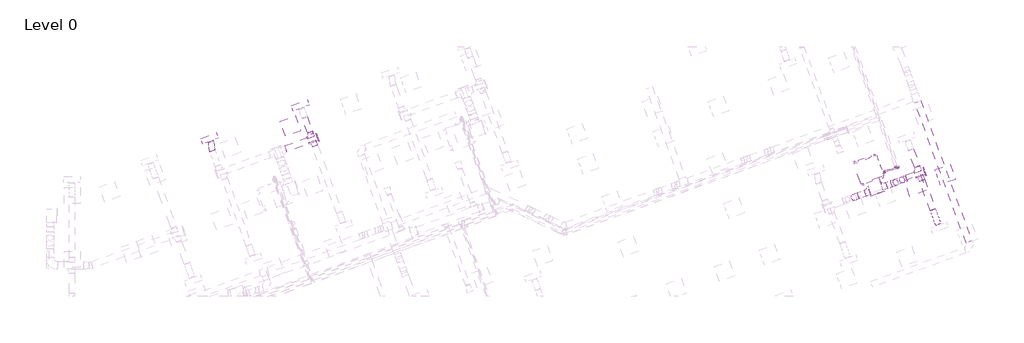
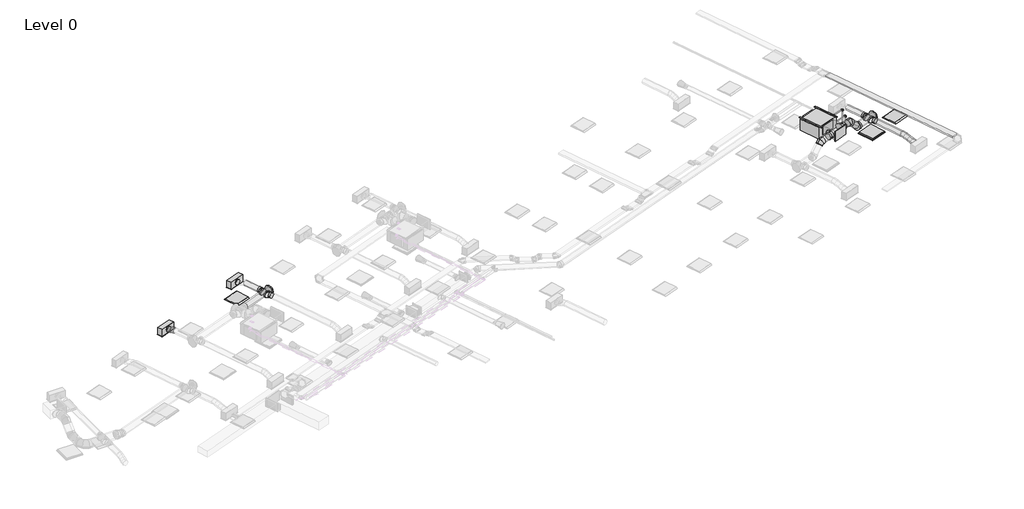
# One storey, part 29 of 34: 12 duct fittings, 11 duct segments, 6 pipe fittings, 4 pipe segments, 3 air terminals, 2 light fixtures, 1 cable carrier segment, 1 proxy.
"""IFC4 building model written with IfcOpenShell, lengths in millimetres."""

from ifc_helpers import new_model, si_unit, point, frame, frame_2d, origin, place, context, project, spatial, polyline, circle_curve, ellipse_curve, trimmed, segment, composite_curve, outline, extrude, transform, mapped, element, save
from ifc_brep_helpers import plane_surface, cylinder_surface, advanced_brep
from components import return_grille_rectangular_hosted_standard_7b12617c, supply_diffuser_with_plenum_linear_slot_hosted_8c379eed, fan_coil_unit_ceiling_ducted_chw_376_lps_9c8cc8ac, dw144_rectangular_blank_end_standard_1669e3e3, dw144_round_blank_end_standard_e3d0b58b, dw144_round_segmented_bend_slip_joint_standard_636bd9c1, dw144_round_shoe_branch_slip_joint1_standard_2_15a2edd8, dw144_round_shoe_branch_slip_joint1_standard_2_4a92c8a1, dw144_round_shoe_branch_slip_joint1_standard_2_671412f0, light_fixture_1c7c1157, elbow_threaded_gmi_standard_b4aa7741, socket_reducing_threaded_gmi_standard_0a4076b8

model = new_model("IFC4")

# Units and contexts
model_context = context("Model", 3, world=origin())
ifc_project = project(units=[si_unit("LENGTHUNIT", "METRE", prefix="MILLI")], contexts=[model_context])

# Site, building, storey
site = spatial("IfcSite", under=ifc_project)
building = spatial("IfcBuilding", under=site)
storey = spatial("IfcBuildingStorey", under=building, Name="Level 0", Elevation=0.0)

# Air terminals
placement = place(None, origin())
return_grille_rectangular_hosted_standard_shape = return_grille_rectangular_hosted_standard_7b12617c(model_context)
element("IfcAirTerminal", 1, ObjectType="Return Grille - Rectangular - Hosted : Standard", at=placement, inside=storey, context=model_context, shape_type="MappedRepresentation", body=[
    mapped(return_grille_rectangular_hosted_standard_shape, transform((62324.0047402, 14540.1267847, 2800.0), x_axis=(0.9396926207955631, 0.3420201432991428, 0.0), y_axis=(0.3420201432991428, -0.9396926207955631, 0.0), z_axis=(0.0, 0.0, -1.0))),
])
supply_diffuser_with_plenum_linear_slot_hosted_shape = supply_diffuser_with_plenum_linear_slot_hosted_8c379eed(model_context)
element("IfcAirTerminal", 2, ObjectType="Supply Diffuser with Plenum - Linear Slot - Hosted : 24\" x 8\"-200 In Inlet  4-Slot", at=placement, inside=storey, context=model_context, shape_type="MappedRepresentation", body=[
    mapped(supply_diffuser_with_plenum_linear_slot_hosted_shape, transform((35911.9429146, 16306.0157494, 2800.0), x_axis=(-0.9396926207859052, -0.3420201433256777, 0.0), y_axis=(-0.3420201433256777, 0.9396926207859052, 0.0), z_axis=(0.0, 0.0, -1.0))),
])
element("IfcAirTerminal", 3, ObjectType="Supply Diffuser with Plenum - Linear Slot - Hosted : 24\" x 8\"-200 In Inlet  4-Slot", at=placement, inside=storey, context=model_context, shape_type="MappedRepresentation", body=[
    mapped(supply_diffuser_with_plenum_linear_slot_hosted_shape, transform((39305.8307526, 17541.2899009, 2800.0), x_axis=(-0.9396926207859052, -0.3420201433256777, 0.0), y_axis=(-0.3420201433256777, 0.9396926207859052, 0.0), z_axis=(0.0, 0.0, -1.0))),
])

# Proxy
fan_coil_unit_ceiling_ducted_chw_376_lps_shape = fan_coil_unit_ceiling_ducted_chw_376_lps_9c8cc8ac(model_context)
element("IfcBuildingElementProxy", 4, Name="Fan Coil Unit - Ceiling Ducted - CHW : 376 LPS", ObjectType="Fan Coil Unit - Ceiling Ducted - CHW : 376 LPS", at=placement, inside=storey, context=model_context, shape_type="MappedRepresentation", body=[
    mapped(fan_coil_unit_ceiling_ducted_chw_376_lps_shape, transform((60297.8420212, 14594.4554515, 3215.575), x_axis=(0.9396926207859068, 0.34202014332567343, 0.0), y_axis=(-0.34202014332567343, 0.9396926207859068, 0.0), z_axis=(0.0, 0.0, 1.0))),
])

# Cable carrier segment
element("IfcCableCarrierSegment", 5, ObjectType="Perforated Cable Tray", at=placement, inside=storey, context=model_context, shape_type="SweptSolid", body=[
    extrude(outline(polyline([(62316.5561069, 17642.8846749), (62527.9869466, 17719.8392071), (64443.8977173, 12455.9176269), (64232.4668776, 12378.9630947), (62316.5561069, 17642.8846749)])), frame((0.0, 0.0, 3223.9627355), z_axis=(0.0, 0.0, 1.0), x_axis=(1.0, 0.0, 0.0)), (0.0, 0.0, 1.0), 50.0),
])

# Duct fittings
dw144_rectangular_blank_end_standard_shape = dw144_rectangular_blank_end_standard_1669e3e3(model_context)
element("IfcDuctFitting", 6, ObjectType="DW144 Rectangular Blank End : Standard", at=placement, inside=storey, context=model_context, shape_type="MappedRepresentation", body=[
    mapped(dw144_rectangular_blank_end_standard_shape, transform((60913.8704656, 14238.6945827, 3469.575), x_axis=(0.34202014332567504, -0.9396926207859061, 0.0), y_axis=(0.9396926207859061, 0.34202014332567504, 0.0), z_axis=(0.0, 0.0, 1.0))),
])
dw144_round_blank_end_standard_shape = dw144_round_blank_end_standard_e3d0b58b(model_context)
element("IfcDuctFitting", 7, ObjectType="DW144 Round Blank End : Standard", at=placement, inside=storey, context=model_context, shape_type="MappedRepresentation", body=[
    mapped(dw144_round_blank_end_standard_shape, transform((39941.5121166, 16343.1470586, 3072.2088531), x_axis=(0.9396926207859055, 0.3420201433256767, 0.0), y_axis=(-0.3420201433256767, 0.9396926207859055, 0.0), z_axis=(0.0, 0.0, 1.0))),
])
element("IfcDuctFitting", 8, ObjectType="DW144 Round Blank End : Standard", at=placement, inside=storey, context=model_context, shape_type="MappedRepresentation", body=[
    mapped(dw144_round_blank_end_standard_shape, transform((62668.7217522, 15052.7517594, 3072.2088531), x_axis=(0.9396926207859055, 0.3420201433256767, 0.0), y_axis=(-0.3420201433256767, 0.9396926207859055, 0.0), z_axis=(0.0, 0.0, 1.0))),
])
dw144_round_segmented_bend_slip_joint_standard_shape = dw144_round_segmented_bend_slip_joint_standard_636bd9c1(model_context)
element("IfcDuctFitting", 9, ObjectType="DW144 Round Segmented Bend - Slip Joint : Standard", at=placement, inside=storey, context=model_context, shape_type="MappedRepresentation", body=[
    mapped(dw144_round_segmented_bend_slip_joint_standard_shape, transform((61898.7954922, 14772.5215182, 3072.2088531), x_axis=(0.6644630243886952, 0.24184476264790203, -0.7071067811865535), y_axis=(0.6644630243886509, 0.2418447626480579, 0.7071067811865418), z_axis=(0.3420201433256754, -0.939692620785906, 0.0))),
])
element("IfcDuctFitting", 10, ObjectType="DW144 Round Segmented Bend - Slip Joint : Standard", at=placement, inside=storey, context=model_context, shape_type="MappedRepresentation", body=[
    mapped(dw144_round_segmented_bend_slip_joint_standard_shape, transform((61525.3934562, 14636.6142917, 3469.575), x_axis=(0.9396926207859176, 0.3420201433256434, 0.0), y_axis=(0.0, 0.0, -1.0), z_axis=(-0.3420201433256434, 0.9396926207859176, 0.0))),
])
element("IfcDuctFitting", 11, ObjectType="DW144 Round Segmented Bend - Slip Joint : Standard", at=placement, inside=storey, context=model_context, shape_type="MappedRepresentation", body=[
    mapped(dw144_round_segmented_bend_slip_joint_standard_shape, transform((60097.0606726, 14116.7436739, 3469.575), x_axis=(-0.9396926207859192, -0.3420201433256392, 0.0), y_axis=(0.0, 0.0, -1.0000000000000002), z_axis=(0.3420201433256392, -0.9396926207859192, 0.0))),
])
dw144_round_shoe_branch_slip_joint1_standard_2_shape = dw144_round_shoe_branch_slip_joint1_standard_2_15a2edd8(model_context)
element("IfcDuctFitting", 12, ObjectType="DW144 Round Shoe Branch - Slip Joint1 : Standard 2", at=placement, inside=storey, context=model_context, shape_type="MappedRepresentation", body=[
    mapped(dw144_round_shoe_branch_slip_joint1_standard_2_shape, transform((39722.5145153, 16396.4606719, 3072.2088531), x_axis=(-0.3420201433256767, 0.9396926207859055, 0.0), y_axis=(0.9396926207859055, 0.3420201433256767, 0.0), z_axis=(0.0, 0.0, -1.0))),
])
element("IfcDuctFitting", 13, ObjectType="DW144 Round Shoe Branch - Slip Joint1 : Standard 2", at=placement, inside=storey, context=model_context, shape_type="MappedRepresentation", body=[
    mapped(dw144_round_shoe_branch_slip_joint1_standard_2_shape, transform((39808.0195511, 16161.5375167, 3072.2088531), x_axis=(0.3420201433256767, -0.9396926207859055, 0.0), y_axis=(0.9396926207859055, 0.3420201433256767, 0.0), z_axis=(0.0, 0.0, 1.0))),
])
element("IfcDuctFitting", 14, ObjectType="DW144 Round Shoe Branch - Slip Joint1 : Standard 2", at=placement, inside=storey, context=model_context, shape_type="MappedRepresentation", body=[
    mapped(dw144_round_shoe_branch_slip_joint1_standard_2_shape, transform((62449.7241509, 15106.0653727, 3072.2088531), x_axis=(-0.3420201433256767, 0.9396926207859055, 0.0), y_axis=(0.9396926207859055, 0.3420201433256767, 0.0), z_axis=(0.0, 0.0, -1.0))),
])
element("IfcDuctFitting", 15, ObjectType="DW144 Round Shoe Branch - Slip Joint1 : Standard 2", at=placement, inside=storey, context=model_context, shape_type="MappedRepresentation", body=[
    mapped(dw144_round_shoe_branch_slip_joint1_standard_2_shape, transform((62535.2291867, 14871.1422175, 3072.2088531), x_axis=(0.3420201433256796, -0.9396926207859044, 0.0), y_axis=(0.9396926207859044, 0.3420201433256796, 0.0), z_axis=(0.0, 0.0, 1.0))),
])
dw144_round_shoe_branch_slip_joint1_standard_2_2_shape = dw144_round_shoe_branch_slip_joint1_standard_2_4a92c8a1(model_context)
element("IfcDuctFitting", 16, ObjectType="DW144 Round Shoe Branch - Slip Joint1 : Standard 2", at=placement, inside=storey, context=model_context, shape_type="MappedRepresentation", body=[
    mapped(dw144_round_shoe_branch_slip_joint1_standard_2_2_shape, transform((61092.4392924, 14479.0318633, 3469.575), x_axis=(0.9396926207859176, 0.3420201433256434, 0.0), y_axis=(0.3420201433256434, -0.9396926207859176, 0.0), z_axis=(0.0, 0.0, -1.0))),
])
dw144_round_shoe_branch_slip_joint1_standard_2_3_shape = dw144_round_shoe_branch_slip_joint1_standard_2_671412f0(model_context)
element("IfcDuctFitting", 17, ObjectType="DW144 Round Shoe Branch - Slip Joint1 : Standard 2", at=placement, inside=storey, context=model_context, shape_type="MappedRepresentation", body=[
    mapped(dw144_round_shoe_branch_slip_joint1_standard_2_3_shape, transform((60622.592982, 14308.0217916, 3469.575), x_axis=(-0.9396926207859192, -0.3420201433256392, 0.0), y_axis=(-0.3420201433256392, 0.9396926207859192, 0.0), z_axis=(0.0, 0.0, -1.0))),
])

# Duct segments
element("IfcDuctSegment", 18, ObjectType="DW144 Flanged Med Radius Bend / Shoe Branch", at=placement, inside=storey, context=model_context, shape_type="SweptSolid", body=[
    extrude(outline(polyline([(60501.2336439, 14641.4538326), (60971.0799543, 14812.4639042), (61148.7936208, 14324.1996185), (60678.9473104, 14153.1895468), (60501.2336439, 14641.4538326)])), frame((0.0, 0.0, 3294.575), z_axis=(0.0, 0.0, 1.0), x_axis=(1.0, 0.0, 0.0)), (0.0, 0.0, 1.0), 350.0),
])
element("IfcDuctSegment", 19, ObjectType="DW144 Segmented Bend / Shoe Branch", at=placement, inside=storey, context=model_context, shape_type="SweptSolid", body=[
    extrude(outline(composite_curve([segment(trimmed(circle_curve(frame_2d((0.0, 125.0)), 125.0), [point((125.0, 125.0))], [point((0.0, 0.0))], False, "CARTESIAN"), True, "CONTINUOUS"), segment(trimmed(circle_curve(frame_2d((0.0, 125.0)), 125.0), [point((0.0, 0.0))], [point((-125.0, 125.0))], False, "CARTESIAN"), True, "CONTINUOUS"), segment(trimmed(circle_curve(frame_2d((0.0, 125.0)), 125.0), [point((-125.0, 125.0))], [point((0.0, 250.0))], False, "CARTESIAN"), True, "CONTINUOUS"), segment(trimmed(circle_curve(frame_2d((0.0, 125.0)), 125.0), [point((0.0, 250.0))], [point((125.0, 125.0))], False, "CARTESIAN"), True, "CONTINUOUS")], self_intersect=False)), frame((38766.9179686, 15915.6297514, 3197.2088531), z_axis=(0.9396926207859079, 0.3420201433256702, 0.0), x_axis=(0.3420201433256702, -0.9396926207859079, 0.0)), (0.0, 0.0, 1.0), 1249.976984),
])
element("IfcDuctSegment", 20, ObjectType="DW144 Segmented Bend / Shoe Branch", at=placement, inside=storey, context=model_context, shape_type="SweptSolid", body=[
    extrude(outline(composite_curve([segment(trimmed(circle_curve(frame_2d((0.0, 100.0)), 100.0), [point((100.0, 100.0))], [point((0.0, 0.0))], False, "CARTESIAN"), True, "CONTINUOUS"), segment(trimmed(circle_curve(frame_2d((0.0, 100.0)), 100.0), [point((0.0, 0.0))], [point((-100.0, 100.0))], False, "CARTESIAN"), True, "CONTINUOUS"), segment(trimmed(circle_curve(frame_2d((0.0, 100.0)), 100.0), [point((-100.0, 100.0))], [point((0.0, 200.0))], False, "CARTESIAN"), True, "CONTINUOUS"), segment(trimmed(circle_curve(frame_2d((0.0, 100.0)), 100.0), [point((0.0, 200.0))], [point((100.0, 100.0))], False, "CARTESIAN"), True, "CONTINUOUS")], self_intersect=False)), frame((39671.2114938, 16537.414565, 3172.2088531), z_axis=(-0.3420201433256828, 0.9396926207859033, 0.0), x_axis=(0.9396926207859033, 0.3420201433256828, 0.0)), (0.0, 0.0, 1.0), 590.0),
])
element("IfcDuctSegment", 21, ObjectType="DW144 Segmented Bend / Shoe Branch", at=placement, inside=storey, context=model_context, shape_type="SweptSolid", body=[
    extrude(outline(composite_curve([segment(trimmed(circle_curve(frame_2d((0.0, -125.0)), 125.0), [point((-125.0, -125.0))], [point((0.0, 0.0))], False, "CARTESIAN"), True, "CONTINUOUS"), segment(trimmed(circle_curve(frame_2d((0.0, -125.0)), 125.0), [point((0.0, 0.0))], [point((125.0, -125.0))], False, "CARTESIAN"), True, "CONTINUOUS"), segment(trimmed(circle_curve(frame_2d((0.0, -125.0)), 125.0), [point((125.0, -125.0))], [point((0.0, -250.0))], False, "CARTESIAN"), True, "CONTINUOUS"), segment(trimmed(circle_curve(frame_2d((0.0, -125.0)), 125.0), [point((0.0, -250.0))], [point((-125.0, -125.0))], False, "CARTESIAN"), True, "CONTINUOUS")], self_intersect=False)), frame((61996.1038492, 14807.9388637, 2947.2088531), z_axis=(0.9396926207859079, 0.3420201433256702, 0.0), x_axis=(0.3420201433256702, -0.9396926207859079, 0.0)), (0.0, 0.0, 1.0), 715.7850217),
])
element("IfcDuctSegment", 22, ObjectType="DW144 Segmented Bend / Shoe Branch", at=placement, inside=storey, context=model_context, shape_type="SweptSolid", body=[
    extrude(outline(composite_curve([segment(trimmed(circle_curve(frame_2d((0.0, 100.0)), 100.0), [point((99.9999999, 100.0))], [point((0.0, 0.0))], False, "CARTESIAN"), True, "CONTINUOUS"), segment(trimmed(circle_curve(frame_2d((0.0, 100.0)), 100.0), [point((0.0, 0.0))], [point((-100.0, 100.0))], False, "CARTESIAN"), True, "CONTINUOUS"), segment(trimmed(circle_curve(frame_2d((0.0, 100.0)), 100.0), [point((-100.0, 100.0))], [point((0.0, 200.0))], False, "CARTESIAN"), True, "CONTINUOUS"), segment(trimmed(circle_curve(frame_2d((0.0, 100.0)), 100.0), [point((0.0, 200.0))], [point((99.9999999, 100.0))], False, "CARTESIAN"), True, "CONTINUOUS")], self_intersect=False)), frame((62398.4211294, 15247.0192659, 3172.2088531), z_axis=(-0.3420201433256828, 0.9396926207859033, 0.0), x_axis=(0.9396926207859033, 0.3420201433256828, 0.0)), (0.0, 0.0, 1.0), 682.8884371),
])
element("IfcDuctSegment", 23, ObjectType="DW144 Segmented Bend / Shoe Branch", at=placement, inside=storey, context=model_context, shape_type="SweptSolid", body=[
    extrude(outline(composite_curve([segment(trimmed(circle_curve(frame_2d((0.0, -100.0)), 100.0), [point((-100.0, -100.0))], [point((0.0, 0.0))], False, "CARTESIAN"), True, "CONTINUOUS"), segment(trimmed(circle_curve(frame_2d((0.0, -100.0)), 100.0), [point((0.0, 0.0))], [point((100.0, -100.0))], False, "CARTESIAN"), True, "CONTINUOUS"), segment(trimmed(circle_curve(frame_2d((0.0, -100.0)), 100.0), [point((100.0, -100.0))], [point((0.0, -200.0))], False, "CARTESIAN"), True, "CONTINUOUS"), segment(trimmed(circle_curve(frame_2d((0.0, -100.0)), 100.0), [point((0.0, -200.0))], [point((-100.0, -100.0))], False, "CARTESIAN"), True, "CONTINUOUS")], self_intersect=False)), frame((62987.2757878, 13629.1543884, 2972.2088531), z_axis=(-0.34202014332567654, 0.9396926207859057, 0.0), x_axis=(0.9396926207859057, 0.34202014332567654, 0.0)), (0.0, 0.0, 1.0), 1171.6958415),
])
element("IfcDuctSegment", 24, ObjectType="DW144 Segmented Bend / Shoe Branch", at=placement, inside=storey, context=model_context, shape_type="SweptSolid", body=[
    extrude(outline(composite_curve([segment(trimmed(circle_curve(frame_2d((0.0, 125.0)), 125.0), [point((124.9999999, 125.0))], [point((0.0, 0.0))], False, "CARTESIAN"), True, "CONTINUOUS"), segment(trimmed(circle_curve(frame_2d((0.0, 125.0)), 125.0), [point((0.0, 0.0))], [point((-125.0, 125.0))], False, "CARTESIAN"), True, "CONTINUOUS"), segment(trimmed(circle_curve(frame_2d((0.0, 125.0)), 125.0), [point((-125.0, 125.0))], [point((0.0, 250.0))], False, "CARTESIAN"), True, "CONTINUOUS"), segment(trimmed(circle_curve(frame_2d((0.0, 125.0)), 125.0), [point((0.0, 250.0))], [point((124.9999999, 125.0))], False, "CARTESIAN"), True, "CONTINUOUS")], self_intersect=False)), frame((61256.885501, 14538.8853883, 3594.575), z_axis=(0.9396926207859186, 0.3420201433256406, 0.0), x_axis=(0.3420201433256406, -0.9396926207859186, 0.0)), (0.0, 0.0, 1.0), 182.1868071),
])
element("IfcDuctSegment", 25, ObjectType="DW144 Segmented Bend / Shoe Branch", at=placement, inside=storey, context=model_context, shape_type="SweptSolid", body=[
    extrude(outline(composite_curve([segment(trimmed(circle_curve(frame_2d((0.0, -125.0)), 125.0), [point((-125.0, -125.0))], [point((0.0, 0.0))], False, "CARTESIAN"), True, "CONTINUOUS"), segment(trimmed(circle_curve(frame_2d((0.0, -125.0)), 125.0), [point((0.0, 0.0))], [point((125.0, -125.0))], False, "CARTESIAN"), True, "CONTINUOUS"), segment(trimmed(circle_curve(frame_2d((0.0, -125.0)), 125.0), [point((125.0, -125.0))], [point((0.0, -250.0))], False, "CARTESIAN"), True, "CONTINUOUS"), segment(trimmed(circle_curve(frame_2d((0.0, -125.0)), 125.0), [point((0.0, -250.0))], [point((-125.0, -125.0))], False, "CARTESIAN"), True, "CONTINUOUS")], self_intersect=False)), frame((60194.3690296, 14152.1610194, 3344.575), z_axis=(0.9396926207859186, 0.3420201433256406, 0.0), x_axis=(0.3420201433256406, -0.9396926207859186, 0.0)), (0.0, 0.0, 1.0), 280.7064117),
])
element("IfcDuctSegment", 26, ObjectType="DW144 Segmented Bend / Shoe Branch", at=placement, inside=storey, context=model_context, shape_type="SweptSolid", body=[
    extrude(outline(composite_curve([segment(trimmed(circle_curve(frame_2d((0.0, -125.0)), 125.0), [point((57.2076922, -236.1408113))], [point((-111.1408114, -182.2076923))], False, "CARTESIAN"), True, "CONTINUOUS"), segment(trimmed(circle_curve(frame_2d((0.0, -125.0)), 125.0), [point((-111.1408114, -182.2076923))], [point((-57.2076923, -13.8591886))], False, "CARTESIAN"), True, "CONTINUOUS"), segment(trimmed(circle_curve(frame_2d((0.0, -125.0)), 125.0), [point((-57.2076923, -13.8591886))], [point((111.1408113, -67.7923077))], False, "CARTESIAN"), True, "CONTINUOUS"), segment(trimmed(circle_curve(frame_2d((0.0, -125.0)), 125.0), [point((111.1408113, -67.7923077))], [point((57.2076922, -236.1408113))], False, "CARTESIAN"), True, "CONTINUOUS")], self_intersect=False)), frame((61829.9880931, 14865.7512541, 3185.884105), z_axis=(-0.6644630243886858, -0.24184476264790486, 0.7071067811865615), x_axis=(0.7473211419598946, -0.2150305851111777, 0.6287073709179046)), (0.0, 0.0, 1.0), 354.8538129),
])
element("IfcDuctSegment", 27, ObjectType="Flex - Round", at=placement, inside=storey, context=model_context, shape_type="AdvancedBrep", body=[
    advanced_brep(
    [(35924.0047582, 15801.4077374, 3072.2088531), (36017.9740203, 15835.6097517, 2972.2088531), (36111.9432824, 15869.8117661, 3072.2088531), (36017.9740203, 15835.6097517, 3172.2088531), (35916.3743032, 15822.3722403, 3072.2088531), (36015.9897132, 15841.0615907, 2972.2088531), (36108.1756109, 15880.1633583, 3072.2088531), (36008.5602009, 15861.4740079, 3172.2088531), (35862.0600489, 16150.6873563, 2954.4), (35956.029311, 16184.8893706, 3054.4), (36049.9985731, 16219.0913849, 2954.4), (35956.029311, 16184.8893706, 2854.4), (35901.0047451, 15886.5928885, 3057.7411781), (36007.5007644, 15876.532083, 2964.2180345), (36097.5133869, 15924.7147327, 3062.1722867), (35991.0173676, 15934.7755382, 3155.6954303), (35890.9852261, 15962.3554206, 3026.0114711), (35999.801173, 15934.7524967, 2939.8350497), (36089.0810347, 15988.4759131, 3035.4688025), (35980.2650877, 16016.078837, 3121.645224), (35884.9222967, 16032.0232092, 2991.1400506), (35993.7382436, 16004.4202853, 2904.9636291), (36083.0181052, 16058.1437017, 3000.597382), (35974.2021583, 16085.7466257, 3086.7738035), (35876.4899444, 16095.7843897, 2964.4365665), (35982.9859637, 16085.7235841, 2870.9134228), (36072.9985862, 16133.9062338, 2968.867675), (35966.5025669, 16143.9670393, 3062.3908187), (35865.8277204, 16140.335764, 2954.4), (35965.4431304, 16159.0251144, 2854.4), (36057.6290281, 16198.126882, 2954.4), (35958.0136181, 16179.4375316, 3054.4)],
    [
        (0, 1, circle_curve(frame((36017.9740203, 15835.6097517, 3072.2088531), z_axis=(0.3420201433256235, -0.9396926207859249, 0.0), x_axis=(-0.9396926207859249, -0.3420201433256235, 0.0)), 100.0)),
        (1, 2, circle_curve(frame((36017.9740203, 15835.6097517, 3072.2088531), z_axis=(0.3420201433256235, -0.9396926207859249, 0.0), x_axis=(-0.9396926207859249, -0.3420201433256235, 0.0)), 100.0)),
        (2, 3, circle_curve(frame((36017.9740203, 15835.6097517, 3072.2088531), z_axis=(0.3420201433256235, -0.9396926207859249, 0.0), x_axis=(-0.9396926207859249, -0.3420201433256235, 0.0)), 100.0)),
        (3, 0, circle_curve(frame((36017.9740203, 15835.6097517, 3072.2088531), z_axis=(0.3420201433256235, -0.9396926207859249, 0.0), x_axis=(-0.9396926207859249, -0.3420201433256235, 0.0)), 100.0)),
        (0, 4),
        (4, 5, ellipse_curve(frame((36012.274957, 15851.2677993, 3072.2088531), z_axis=(0.28681455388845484, -0.9519007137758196, 0.10780743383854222), x_axis=(0.47182638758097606, 0.04242446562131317, -0.8806702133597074)), 100.746488, 100.0)),
        (5, 1),
        (5, 6, ellipse_curve(frame((36012.274957, 15851.2677993, 3072.2088531), z_axis=(0.28681455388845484, -0.9519007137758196, 0.10780743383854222), x_axis=(0.47182638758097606, 0.04242446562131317, -0.8806702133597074)), 100.746488, 100.0)),
        (6, 2),
        (6, 7, ellipse_curve(frame((36012.274957, 15851.2677993, 3072.2088531), z_axis=(0.28681455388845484, -0.9519007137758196, 0.10780743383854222), x_axis=(0.47182638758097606, 0.04242446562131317, -0.8806702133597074)), 100.746488, 100.0)),
        (7, 3),
        (7, 4, ellipse_curve(frame((36012.274957, 15851.2677993, 3072.2088531), z_axis=(0.28681455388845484, -0.9519007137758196, 0.10780743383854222), x_axis=(0.47182638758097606, 0.04242446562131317, -0.8806702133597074)), 100.746488, 100.0)),
        (8, 9, circle_curve(frame((35956.029311, 16184.8893706, 2954.4), z_axis=(-0.34202014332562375, 0.9396926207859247, 0.0), x_axis=(-0.9396926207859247, -0.34202014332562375, 0.0)), 100.0)),
        (9, 10, circle_curve(frame((35956.029311, 16184.8893706, 2954.4), z_axis=(-0.34202014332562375, 0.9396926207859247, 0.0), x_axis=(-0.9396926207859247, -0.34202014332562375, 0.0)), 100.0)),
        (10, 11, circle_curve(frame((35956.029311, 16184.8893706, 2954.4), z_axis=(-0.34202014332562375, 0.9396926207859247, 0.0), x_axis=(-0.9396926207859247, -0.34202014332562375, 0.0)), 100.0)),
        (11, 8, circle_curve(frame((35956.029311, 16184.8893706, 2954.4), z_axis=(-0.34202014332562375, 0.9396926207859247, 0.0), x_axis=(-0.9396926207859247, -0.34202014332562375, 0.0)), 100.0)),
        (4, 12),
        (12, 13, ellipse_curve(frame((35999.259066, 15905.6538106, 3059.9567324), z_axis=(0.17512607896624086, -0.9376352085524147, 0.30028498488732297), x_axis=(0.5236540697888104, -0.16957305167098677, -0.8348840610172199)), 100.5188435, 100.0)),
        (13, 5),
        (13, 14, ellipse_curve(frame((35999.259066, 15905.6538106, 3059.9567324), z_axis=(0.17512607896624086, -0.9376352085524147, 0.30028498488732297), x_axis=(0.5236540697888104, -0.16957305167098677, -0.8348840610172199)), 100.5188435, 100.0)),
        (14, 6),
        (14, 15, ellipse_curve(frame((35999.259066, 15905.6538106, 3059.9567324), z_axis=(0.17512607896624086, -0.9376352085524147, 0.30028498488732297), x_axis=(0.5236540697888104, -0.16957305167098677, -0.8348840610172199)), 100.5188435, 100.0)),
        (15, 7),
        (15, 12, ellipse_curve(frame((35999.259066, 15905.6538106, 3059.9567324), z_axis=(0.17512607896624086, -0.9376352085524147, 0.30028498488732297), x_axis=(0.5236540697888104, -0.16957305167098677, -0.8348840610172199)), 100.5188435, 100.0)),
        (12, 16),
        (16, 17, ellipse_curve(frame((35990.0331304, 15975.4156668, 3030.7401368), z_axis=(0.09941622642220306, -0.9042889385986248, 0.4151842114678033), x_axis=(0.5431382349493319, -0.30029372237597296, -0.7841074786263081)), 100.0802707, 100.0)),
        (17, 13),
        (17, 18, ellipse_curve(frame((35990.0331304, 15975.4156668, 3030.7401368), z_axis=(0.09941622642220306, -0.9042889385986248, 0.4151842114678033), x_axis=(0.5431382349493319, -0.30029372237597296, -0.7841074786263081)), 100.0802707, 100.0)),
        (18, 14),
        (18, 19, ellipse_curve(frame((35990.0331304, 15975.4156668, 3030.7401368), z_axis=(0.09941622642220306, -0.9042889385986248, 0.4151842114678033), x_axis=(0.5431382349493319, -0.30029372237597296, -0.7841074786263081)), 100.0802707, 100.0)),
        (19, 15),
        (19, 16, ellipse_curve(frame((35990.0331304, 15975.4156668, 3030.7401368), z_axis=(0.09941622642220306, -0.9042889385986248, 0.4151842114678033), x_axis=(0.5431382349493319, -0.30029372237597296, -0.7841074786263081)), 100.0802707, 100.0)),
        (16, 20),
        (20, 21, ellipse_curve(frame((35983.9702009, 16045.0834555, 2995.8687163), z_axis=(0.0994162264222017, -0.9042889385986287, 0.4151842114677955), x_axis=(-0.5431382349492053, 0.3002937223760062, 0.7841074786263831)), 100.0802707, 100.0)),
        (21, 17),
        (21, 22, ellipse_curve(frame((35983.9702009, 16045.0834555, 2995.8687163), z_axis=(0.0994162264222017, -0.9042889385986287, 0.4151842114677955), x_axis=(-0.5431382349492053, 0.3002937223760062, 0.7841074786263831)), 100.0802707, 100.0)),
        (22, 18),
        (22, 23, ellipse_curve(frame((35983.9702009, 16045.0834555, 2995.8687163), z_axis=(0.0994162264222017, -0.9042889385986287, 0.4151842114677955), x_axis=(-0.5431382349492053, 0.3002937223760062, 0.7841074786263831)), 100.0802707, 100.0)),
        (23, 19),
        (23, 20, ellipse_curve(frame((35983.9702009, 16045.0834555, 2995.8687163), z_axis=(0.0994162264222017, -0.9042889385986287, 0.4151842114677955), x_axis=(-0.5431382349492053, 0.3002937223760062, 0.7841074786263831)), 100.0802707, 100.0)),
        (20, 24),
        (24, 25, ellipse_curve(frame((35974.7442653, 16114.8453117, 2966.6521207), z_axis=(0.17512607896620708, -0.9376352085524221, 0.30028498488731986), x_axis=(-0.5236540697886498, 0.16957305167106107, 0.8348840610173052)), 100.5188435, 100.0)),
        (25, 21),
        (25, 26, ellipse_curve(frame((35974.7442653, 16114.8453117, 2966.6521207), z_axis=(0.17512607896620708, -0.9376352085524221, 0.30028498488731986), x_axis=(-0.5236540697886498, 0.16957305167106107, 0.8348840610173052)), 100.5188435, 100.0)),
        (26, 22),
        (26, 27, ellipse_curve(frame((35974.7442653, 16114.8453117, 2966.6521207), z_axis=(0.17512607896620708, -0.9376352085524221, 0.30028498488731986), x_axis=(-0.5236540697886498, 0.16957305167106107, 0.8348840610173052)), 100.5188435, 100.0)),
        (27, 23),
        (27, 24, ellipse_curve(frame((35974.7442653, 16114.8453117, 2966.6521207), z_axis=(0.17512607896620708, -0.9376352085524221, 0.30028498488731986), x_axis=(-0.5236540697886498, 0.16957305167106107, 0.8348840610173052)), 100.5188435, 100.0)),
        (24, 28),
        (28, 29, ellipse_curve(frame((35961.7283743, 16169.231323, 2954.4), z_axis=(0.2868145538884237, -0.9519007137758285, 0.10780743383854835), x_axis=(-0.4718263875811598, -0.04242446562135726, 0.8806702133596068)), 100.746488, 100.0)),
        (29, 25),
        (29, 30, ellipse_curve(frame((35961.7283743, 16169.231323, 2954.4), z_axis=(0.2868145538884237, -0.9519007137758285, 0.10780743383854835), x_axis=(-0.4718263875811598, -0.04242446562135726, 0.8806702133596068)), 100.746488, 100.0)),
        (30, 26),
        (30, 31, ellipse_curve(frame((35961.7283743, 16169.231323, 2954.4), z_axis=(0.2868145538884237, -0.9519007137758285, 0.10780743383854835), x_axis=(-0.4718263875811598, -0.04242446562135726, 0.8806702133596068)), 100.746488, 100.0)),
        (31, 27),
        (31, 28, ellipse_curve(frame((35961.7283743, 16169.231323, 2954.4), z_axis=(0.2868145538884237, -0.9519007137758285, 0.10780743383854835), x_axis=(-0.4718263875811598, -0.04242446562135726, 0.8806702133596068)), 100.746488, 100.0)),
        (28, 8),
        (11, 29),
        (10, 30),
        (9, 31),
    ],
    [
        plane_surface(frame((36017.9740203, 15835.6097517, 3172.2088531), z_axis=(0.3420201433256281, -0.9396926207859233, 0.0), x_axis=(0.9396926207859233, 0.3420201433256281, 0.0))),
        cylinder_surface(frame((36017.9740203, 15835.6097517, 3072.2088531), z_axis=(0.3420201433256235, -0.9396926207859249, 0.0), x_axis=(-0.9396926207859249, -0.3420201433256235, 0.0)), 100.0),
        plane_surface(frame((35956.029311, 16184.8893706, 3054.4), z_axis=(-0.3420201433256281, 0.9396926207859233, 0.0), x_axis=(0.9396926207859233, 0.3420201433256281, 0.0))),
        cylinder_surface(frame((36012.274957, 15851.2677993, 3072.2088531), z_axis=(0.2273586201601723, -0.9500024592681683, 0.2140172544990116), x_axis=(-0.9718455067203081, -0.2353088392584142, -0.012085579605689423)), 100.0),
        cylinder_surface(frame((35999.259066, 15905.6538106, 3059.9567324), z_axis=(0.12108565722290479, -0.9155884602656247, 0.38345278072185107), x_axis=(-0.9882405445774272, -0.14752885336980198, -0.040197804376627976)), 100.0),
        cylinder_surface(frame((35990.0331304, 15975.4156668, 3030.7401368), z_axis=(0.07758731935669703, -0.8915388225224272, 0.4462496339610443), x_axis=(-0.9919133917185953, -0.11412067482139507, -0.05553642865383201)), 100.0),
        cylinder_surface(frame((35983.9702009, 16045.0834555, 2995.8687163), z_axis=(0.121085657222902, -0.9155884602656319, 0.38345278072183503), x_axis=(-0.9882405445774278, -0.1475288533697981, -0.040197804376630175)), 100.0),
        cylinder_surface(frame((35974.7442653, 16114.8453117, 2966.6521207), z_axis=(0.22735862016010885, -0.950002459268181, 0.21401725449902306), x_axis=(-0.9718455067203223, -0.23530883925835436, -0.012085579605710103)), 100.0),
        cylinder_surface(frame((35961.7283743, 16169.231323, 2954.4), z_axis=(0.34202014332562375, -0.9396926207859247, 0.0), x_axis=(-0.9396926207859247, -0.34202014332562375, 0.0)), 100.0),
    ],
    [
        (0, [[1, 2, 3, 4]]),
        (1, [[-1, 5, 6, 7]]),
        (1, [[-2, -7, 8, 9]]),
        (1, [[-3, -9, 10, 11]]),
        (1, [[-4, -11, 12, -5]]),
        (2, [[13, 14, 15, 16]]),
        (3, [[-6, 17, 18, 19]]),
        (3, [[-8, -19, 20, 21]]),
        (3, [[-10, -21, 22, 23]]),
        (3, [[-12, -23, 24, -17]]),
        (4, [[-18, 25, 26, 27]]),
        (4, [[-20, -27, 28, 29]]),
        (4, [[-22, -29, 30, 31]]),
        (4, [[-24, -31, 32, -25]]),
        (5, [[-26, 33, 34, 35]]),
        (5, [[-28, -35, 36, 37]]),
        (5, [[-30, -37, 38, 39]]),
        (5, [[-32, -39, 40, -33]]),
        (6, [[-34, 41, 42, 43]]),
        (6, [[-36, -43, 44, 45]]),
        (6, [[-38, -45, 46, 47]]),
        (6, [[-40, -47, 48, -41]]),
        (7, [[-42, 49, 50, 51]]),
        (7, [[-44, -51, 52, 53]]),
        (7, [[-46, -53, 54, 55]]),
        (7, [[-48, -55, 56, -49]]),
        (8, [[-50, 57, -16, 58]]),
        (8, [[-52, -58, -15, 59]]),
        (8, [[-54, -59, -14, 60]]),
        (8, [[-56, -60, -13, -57]]),
    ],
),
])
element("IfcDuctSegment", 28, ObjectType="Flex - Round", at=placement, inside=storey, context=model_context, shape_type="AdvancedBrep", body=[
    advanced_brep(
    [(63081.2450499, 13663.3564027, 3072.2088531), (62987.2757878, 13629.1543884, 2972.2088531), (62893.3065257, 13594.952374, 3072.2088531), (62987.2757878, 13629.1543884, 3172.2088531), (63085.4622602, 13651.7697128, 3072.2088531), (62989.1858231, 13623.9066095, 2972.2088531), (62897.523736, 13583.3656841, 3072.2088531), (62993.800173, 13611.2287874, 3172.2088531), (63282.4260532, 13110.616139, 2954.4), (63188.4567912, 13076.4141246, 3054.4), (63094.4875291, 13042.2121103, 2954.4), (63188.4567912, 13076.4141246, 2854.4), (63131.9148616, 13524.1422392, 3053.8012198), (63031.0450129, 13508.8994309, 2955.6214373), (62943.9763375, 13455.7382106, 3053.8012198), (63044.8461862, 13470.9810189, 3151.9810023), (63181.8355516, 13386.9862709, 3013.3044266), (63078.7222223, 13377.9073745, 2916.9446062), (62993.8970274, 13318.5822422, 3013.3044266), (63097.0103566, 13327.6611385, 3109.6642469), (63231.7562415, 13249.8303025, 2972.8076333), (63130.8863928, 13234.5874941, 2874.6278508), (63043.8177174, 13181.4262738, 2972.8076333), (63144.6875661, 13196.6690821, 3070.9874158), (63278.208843, 13122.2028289, 2954.4), (63181.932406, 13094.3397257, 2854.4), (63090.2703188, 13053.7988003, 2954.4), (63186.5467558, 13081.6619035, 3054.4)],
    [
        (0, 1, circle_curve(frame((62987.2757878, 13629.1543884, 3072.2088531), z_axis=(-0.34202014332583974, 0.9396926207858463, 0.0), x_axis=(0.9396926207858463, 0.34202014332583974, 0.0)), 100.0)),
        (1, 2, circle_curve(frame((62987.2757878, 13629.1543884, 3072.2088531), z_axis=(-0.34202014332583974, 0.9396926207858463, 0.0), x_axis=(0.9396926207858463, 0.34202014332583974, 0.0)), 100.0)),
        (2, 3, circle_curve(frame((62987.2757878, 13629.1543884, 3072.2088531), z_axis=(-0.34202014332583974, 0.9396926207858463, 0.0), x_axis=(0.9396926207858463, 0.34202014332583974, 0.0)), 100.0)),
        (3, 0, circle_curve(frame((62987.2757878, 13629.1543884, 3072.2088531), z_axis=(-0.34202014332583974, 0.9396926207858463, 0.0), x_axis=(0.9396926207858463, 0.34202014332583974, 0.0)), 100.0)),
        (0, 4),
        (4, 5, ellipse_curve(frame((62991.4929981, 13617.5676984, 3072.2088531), z_axis=(-0.3412446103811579, 0.9375618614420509, 0.06730432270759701), x_axis=(-0.023019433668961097, 0.06324537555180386, -0.9977324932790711)), 100.227266, 100.0)),
        (5, 1),
        (5, 6, ellipse_curve(frame((62991.4929981, 13617.5676984, 3072.2088531), z_axis=(-0.3412446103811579, 0.9375618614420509, 0.06730432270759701), x_axis=(-0.023019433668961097, 0.06324537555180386, -0.9977324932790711)), 100.227266, 100.0)),
        (6, 2),
        (6, 7, ellipse_curve(frame((62991.4929981, 13617.5676984, 3072.2088531), z_axis=(-0.3412446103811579, 0.9375618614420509, 0.06730432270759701), x_axis=(-0.023019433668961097, 0.06324537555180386, -0.9977324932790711)), 100.227266, 100.0)),
        (7, 3),
        (7, 4, ellipse_curve(frame((62991.4929981, 13617.5676984, 3072.2088531), z_axis=(-0.3412446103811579, 0.9375618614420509, 0.06730432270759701), x_axis=(-0.023019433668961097, 0.06324537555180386, -0.9977324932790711)), 100.227266, 100.0)),
        (8, 9, circle_curve(frame((63188.4567912, 13076.4141246, 2954.4), z_axis=(0.3420201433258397, -0.9396926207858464, 0.0), x_axis=(0.9396926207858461, 0.34202014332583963, 0.0)), 100.0)),
        (9, 10, circle_curve(frame((63188.4567912, 13076.4141246, 2954.4), z_axis=(0.3420201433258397, -0.9396926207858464, 0.0), x_axis=(0.9396926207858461, 0.34202014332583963, 0.0)), 100.0)),
        (10, 11, circle_curve(frame((63188.4567912, 13076.4141246, 2954.4), z_axis=(0.3420201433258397, -0.9396926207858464, 0.0), x_axis=(0.9396926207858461, 0.34202014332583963, 0.0)), 100.0)),
        (11, 8, circle_curve(frame((63188.4567912, 13076.4141246, 2954.4), z_axis=(0.3420201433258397, -0.9396926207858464, 0.0), x_axis=(0.9396926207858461, 0.34202014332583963, 0.0)), 100.0)),
        (4, 12),
        (12, 13, ellipse_curve(frame((63037.9455995, 13489.9402249, 3053.8012198), z_axis=(-0.3350193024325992, 0.9204579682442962, 0.2012938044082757), x_axis=(-0.06884653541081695, 0.1891543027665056, -0.979530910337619)), 100.2314286, 100.0)),
        (13, 5),
        (13, 14, ellipse_curve(frame((63037.9455995, 13489.9402249, 3053.8012198), z_axis=(-0.3350193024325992, 0.9204579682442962, 0.2012938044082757), x_axis=(-0.06884653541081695, 0.1891543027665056, -0.979530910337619)), 100.2314286, 100.0)),
        (14, 6),
        (14, 15, ellipse_curve(frame((63037.9455995, 13489.9402249, 3053.8012198), z_axis=(-0.3350193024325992, 0.9204579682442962, 0.2012938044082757), x_axis=(-0.06884653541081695, 0.1891543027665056, -0.979530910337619)), 100.2314286, 100.0)),
        (15, 7),
        (15, 12, ellipse_curve(frame((63037.9455995, 13489.9402249, 3053.8012198), z_axis=(-0.3350193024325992, 0.9204579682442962, 0.2012938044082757), x_axis=(-0.06884653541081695, 0.1891543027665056, -0.979530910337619)), 100.2314286, 100.0)),
        (12, 16),
        (16, 17, circle_curve(frame((63087.8662895, 13352.7842565, 3013.3044266), z_axis=(-0.32956999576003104, 0.9054861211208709, 0.26735463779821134), x_axis=(0.9396926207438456, 0.34202014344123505, 1.6733896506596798e-11)), 100.0)),
        (17, 13),
        (17, 18, circle_curve(frame((63087.8662895, 13352.7842565, 3013.3044266), z_axis=(-0.32956999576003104, 0.9054861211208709, 0.26735463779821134), x_axis=(0.9396926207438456, 0.34202014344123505, 1.6733896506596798e-11)), 100.0)),
        (18, 14),
        (18, 19, circle_curve(frame((63087.8662895, 13352.7842565, 3013.3044266), z_axis=(-0.32956999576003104, 0.9054861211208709, 0.26735463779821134), x_axis=(0.9396926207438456, 0.34202014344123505, 1.6733896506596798e-11)), 100.0)),
        (19, 15),
        (19, 16, circle_curve(frame((63087.8662895, 13352.7842565, 3013.3044266), z_axis=(-0.32956999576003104, 0.9054861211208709, 0.26735463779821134), x_axis=(0.9396926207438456, 0.34202014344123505, 1.6733896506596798e-11)), 100.0)),
        (16, 20),
        (20, 21, ellipse_curve(frame((63137.7869795, 13215.6282881, 2972.8076333), z_axis=(-0.3350193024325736, 0.920457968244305, 0.20129380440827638), x_axis=(0.06884653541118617, -0.18915430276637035, 0.979530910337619)), 100.2314286, 100.0)),
        (21, 17),
        (21, 22, ellipse_curve(frame((63137.7869795, 13215.6282881, 2972.8076333), z_axis=(-0.3350193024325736, 0.920457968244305, 0.20129380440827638), x_axis=(0.06884653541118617, -0.18915430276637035, 0.979530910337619)), 100.2314286, 100.0)),
        (22, 18),
        (22, 23, ellipse_curve(frame((63137.7869795, 13215.6282881, 2972.8076333), z_axis=(-0.3350193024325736, 0.920457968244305, 0.20129380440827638), x_axis=(0.06884653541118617, -0.18915430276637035, 0.979530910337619)), 100.2314286, 100.0)),
        (23, 19),
        (23, 20, ellipse_curve(frame((63137.7869795, 13215.6282881, 2972.8076333), z_axis=(-0.3350193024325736, 0.920457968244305, 0.20129380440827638), x_axis=(0.06884653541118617, -0.18915430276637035, 0.979530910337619)), 100.2314286, 100.0)),
        (20, 24),
        (24, 25, ellipse_curve(frame((63184.2395809, 13088.0008146, 2954.4), z_axis=(-0.3412446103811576, 0.9375618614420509, 0.06730432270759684), x_axis=(0.02301943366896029, -0.0632453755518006, 0.9977324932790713)), 100.227266, 100.0)),
        (25, 21),
        (25, 26, ellipse_curve(frame((63184.2395809, 13088.0008146, 2954.4), z_axis=(-0.3412446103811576, 0.9375618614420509, 0.06730432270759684), x_axis=(0.02301943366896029, -0.0632453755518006, 0.9977324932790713)), 100.227266, 100.0)),
        (26, 22),
        (26, 27, ellipse_curve(frame((63184.2395809, 13088.0008146, 2954.4), z_axis=(-0.3412446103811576, 0.9375618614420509, 0.06730432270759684), x_axis=(0.02301943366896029, -0.0632453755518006, 0.9977324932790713)), 100.227266, 100.0)),
        (27, 23),
        (27, 24, ellipse_curve(frame((63184.2395809, 13088.0008146, 2954.4), z_axis=(-0.3412446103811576, 0.9375618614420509, 0.06730432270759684), x_axis=(0.02301943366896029, -0.0632453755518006, 0.9977324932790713)), 100.227266, 100.0)),
        (24, 8),
        (11, 25),
        (10, 26),
        (9, 27),
    ],
    [
        plane_surface(frame((62987.2757878, 13629.1543884, 2972.2088531), z_axis=(-0.3420201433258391, 0.9396926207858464, 0.0), x_axis=(0.9396926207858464, 0.3420201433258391, 0.0))),
        cylinder_surface(frame((62987.2757878, 13629.1543884, 3072.2088531), z_axis=(-0.34202014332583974, 0.9396926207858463, 0.0), x_axis=(0.9396926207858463, 0.34202014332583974, 0.0)), 100.0),
        plane_surface(frame((63188.4567912, 13076.4141246, 2854.4), z_axis=(0.3420201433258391, -0.9396926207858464, 0.0), x_axis=(0.9396926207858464, 0.3420201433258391, 0.0))),
        cylinder_surface(frame((62991.4929981, 13617.5676984, 3072.2088531), z_axis=(-0.338921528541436, 0.9311792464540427, 0.13430341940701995), x_axis=(0.939692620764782, 0.3420201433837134, 4.154530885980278e-12)), 100.0),
        cylinder_surface(frame((63037.9455995, 13489.9402249, 3053.8012198), z_axis=(-0.32956999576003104, 0.9054861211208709, 0.26735463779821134), x_axis=(0.9396926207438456, 0.34202014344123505, 1.6733896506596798e-11)), 100.0),
        cylinder_surface(frame((63087.8662895, 13352.7842565, 3013.3044266), z_axis=(-0.32956999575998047, 0.9054861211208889, 0.267354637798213), x_axis=(0.9396926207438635, 0.3420201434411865, 1.6719499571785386e-11)), 100.0),
        cylinder_surface(frame((63137.7869795, 13215.6282881, 2972.8076333), z_axis=(-0.3389215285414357, 0.9311792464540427, 0.13430341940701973), x_axis=(0.9396926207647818, 0.34202014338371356, 4.150878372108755e-12)), 100.0),
        cylinder_surface(frame((63184.2395809, 13088.0008146, 2954.4), z_axis=(-0.34202014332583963, 0.9396926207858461, 0.0), x_axis=(0.9396926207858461, 0.34202014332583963, 0.0)), 100.0),
    ],
    [
        (0, [[1, 2, 3, 4]]),
        (1, [[-1, 5, 6, 7]]),
        (1, [[-2, -7, 8, 9]]),
        (1, [[-3, -9, 10, 11]]),
        (1, [[-4, -11, 12, -5]]),
        (2, [[13, 14, 15, 16]]),
        (3, [[-6, 17, 18, 19]]),
        (3, [[-8, -19, 20, 21]]),
        (3, [[-10, -21, 22, 23]]),
        (3, [[-12, -23, 24, -17]]),
        (4, [[-18, 25, 26, 27]]),
        (4, [[-20, -27, 28, 29]]),
        (4, [[-22, -29, 30, 31]]),
        (4, [[-24, -31, 32, -25]]),
        (5, [[-26, 33, 34, 35]]),
        (5, [[-28, -35, 36, 37]]),
        (5, [[-30, -37, 38, 39]]),
        (5, [[-32, -39, 40, -33]]),
        (6, [[-34, 41, 42, 43]]),
        (6, [[-36, -43, 44, 45]]),
        (6, [[-38, -45, 46, 47]]),
        (6, [[-40, -47, 48, -41]]),
        (7, [[-42, 49, -16, 50]]),
        (7, [[-44, -50, -15, 51]]),
        (7, [[-46, -51, -14, 52]]),
        (7, [[-48, -52, -13, -49]]),
    ],
),
])

# Light fixtures
light_fixture_shape = light_fixture_1c7c1157(model_context)
element("IfcLightFixture", 29, ObjectType="ELEKTRA Plain Recessed Lighting Fixture : 24\" x 24\" - 230", at=placement, inside=storey, context=model_context, shape_type="MappedRepresentation", body=[
    mapped(light_fixture_shape, transform((38756.9311197, 16383.7467777, 2800.0), x_axis=(0.9396926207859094, 0.34202014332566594, 0.0), y_axis=(0.34202014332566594, -0.9396926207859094, 0.0), z_axis=(0.0, 0.0, -1.0))),
])
element("IfcLightFixture", 30, ObjectType="ELEKTRA Plain Recessed Lighting Fixture : 24\" x 24\" - 230", at=placement, inside=storey, context=model_context, shape_type="MappedRepresentation", body=[
    mapped(light_fixture_shape, transform((63272.334142, 14566.0371273, 2800.0), x_axis=(0.9396926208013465, 0.3420201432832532, 0.0), y_axis=(0.3420201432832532, -0.9396926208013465, 0.0), z_axis=(0.0, 0.0, -1.0))),
])

# Pipe fittings
elbow_threaded_gmi_standard_shape = elbow_threaded_gmi_standard_b4aa7741(model_context)
element("IfcPipeFitting", 31, ObjectType="Elbow - Threaded - GMI : Standard", at=placement, inside=storey, context=model_context, shape_type="MappedRepresentation", body=[
    mapped(elbow_threaded_gmi_standard_shape, transform((61594.4243298, 15228.5535106, 3596.575), x_axis=(0.9396926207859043, 0.34202014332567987, 0.0), y_axis=(0.0, 0.0, -1.0), z_axis=(-0.34202014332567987, 0.9396926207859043, 0.0))),
])
element("IfcPipeFitting", 32, ObjectType="Elbow - Threaded - GMI : Standard", at=placement, inside=storey, context=model_context, shape_type="MappedRepresentation", body=[
    mapped(elbow_threaded_gmi_standard_shape, transform((61594.4243298, 15228.5535106, 3000.0), x_axis=(0.0, 0.0, -1.0), y_axis=(-0.3420201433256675, 0.9396926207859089, 0.0), z_axis=(0.9396926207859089, 0.3420201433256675, 0.0))),
])
element("IfcPipeFitting", 33, ObjectType="Elbow - Threaded - GMI : Standard", at=placement, inside=storey, context=model_context, shape_type="MappedRepresentation", body=[
    mapped(elbow_threaded_gmi_standard_shape, transform((61699.9121465, 15212.8877051, 2925.0), x_axis=(0.34202014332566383, -0.9396926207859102, 0.0), y_axis=(0.0, 0.0, 1.0), z_axis=(-0.9396926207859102, -0.34202014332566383, 0.0))),
])
element("IfcPipeFitting", 34, ObjectType="Elbow - Threaded - GMI : Standard", at=placement, inside=storey, context=model_context, shape_type="MappedRepresentation", body=[
    mapped(elbow_threaded_gmi_standard_shape, transform((61699.9121465, 15212.8877051, 3317.175), x_axis=(0.9396926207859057, 0.34202014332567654, 0.0), y_axis=(0.0, 0.0, -1.0000000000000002), z_axis=(-0.34202014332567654, 0.9396926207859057, 0.0))),
])
socket_reducing_threaded_gmi_standard_shape = socket_reducing_threaded_gmi_standard_0a4076b8(model_context)
element("IfcPipeFitting", 35, ObjectType="Socket Reducing - Threaded - GMI : Standard", at=placement, inside=storey, context=model_context, shape_type="MappedRepresentation", body=[
    mapped(socket_reducing_threaded_gmi_standard_shape, transform((61146.2158997, 15011.3587524, 3317.175), x_axis=(0.9396926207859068, 0.34202014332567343, 0.0), y_axis=(-0.34202014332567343, 0.9396926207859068, 0.0), z_axis=(0.0, 0.0, 1.0))),
])
element("IfcPipeFitting", 36, ObjectType="Socket Reducing - Threaded - GMI : Standard", at=placement, inside=storey, context=model_context, shape_type="MappedRepresentation", body=[
    mapped(socket_reducing_threaded_gmi_standard_shape, transform((61128.8412764, 15059.0951376, 3596.575), x_axis=(0.9396926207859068, 0.34202014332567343, 0.0), y_axis=(-0.34202014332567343, 0.9396926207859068, 0.0), z_axis=(0.0, 0.0, 1.0))),
])

# Pipe segments
element("IfcPipeSegment", 37, ObjectType="Carbon Steel - Threaded", at=placement, inside=storey, context=model_context, shape_type="SweptSolid", body=[
    extrude(outline(composite_curve([segment(trimmed(circle_curve(frame_2d((0.0, -21.45)), 21.45), [point((-21.45, -21.45))], [point((0.0, 0.0))], False, "CARTESIAN"), True, "CONTINUOUS"), segment(trimmed(circle_curve(frame_2d((0.0, -21.45)), 21.45), [point((0.0, 0.0))], [point((21.45, -21.45))], False, "CARTESIAN"), True, "CONTINUOUS"), segment(trimmed(circle_curve(frame_2d((0.0, -21.45)), 21.45), [point((21.45, -21.45))], [point((0.0, -42.9))], False, "CARTESIAN"), True, "CONTINUOUS"), segment(trimmed(circle_curve(frame_2d((0.0, -21.45)), 21.45), [point((0.0, -42.9))], [point((-21.45, -21.45))], False, "CARTESIAN"), True, "CONTINUOUS")], self_intersect=False)), frame((61177.7052927, 15076.880185, 3575.125), z_axis=(0.939692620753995, 0.34202014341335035, 0.0), x_axis=(0.34202014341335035, -0.939692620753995, 0.0)), (0.0, 0.0, 1.0), 398.4631367),
])
element("IfcPipeSegment", 38, ObjectType="Carbon Steel - Threaded", at=placement, inside=storey, context=model_context, shape_type="SweptSolid", body=[
    extrude(outline(composite_curve([segment(trimmed(circle_curve(frame_2d((0.0, 21.45)), 21.45), [point((21.45, 21.45))], [point((0.0, 0.0))], False, "CARTESIAN"), True, "CONTINUOUS"), segment(trimmed(circle_curve(frame_2d((0.0, 21.45)), 21.45), [point((0.0, 0.0))], [point((-21.45, 21.45))], False, "CARTESIAN"), True, "CONTINUOUS"), segment(trimmed(circle_curve(frame_2d((0.0, 21.45)), 21.45), [point((-21.45, 21.45))], [point((0.0, 42.9))], False, "CARTESIAN"), True, "CONTINUOUS"), segment(trimmed(circle_curve(frame_2d((0.0, 21.45)), 21.45), [point((0.0, 42.9))], [point((21.45, 21.45))], False, "CARTESIAN"), True, "CONTINUOUS")], self_intersect=False)), frame((61195.079916, 15029.1437999, 3338.625), z_axis=(0.9396926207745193, 0.34202014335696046, 0.0), x_axis=(0.34202014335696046, -0.9396926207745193, 0.0)), (0.0, 0.0, 1.0), 492.2312385),
])
element("IfcPipeSegment", 39, ObjectType="Carbon Steel - Threaded", at=placement, inside=storey, context=model_context, shape_type="SweptSolid", body=[
    extrude(outline(composite_curve([segment(trimmed(circle_curve(frame_2d((61594.4243298, 15228.5535106)), 21.45), [point((61615.8743298, 15228.5535106))], [point((61594.4243298, 15207.1035106))], False, "CARTESIAN"), True, "CONTINUOUS"), segment(trimmed(circle_curve(frame_2d((61594.4243298, 15228.5535106)), 21.45), [point((61594.4243298, 15207.1035106))], [point((61572.9743298, 15228.5535106))], False, "CARTESIAN"), True, "CONTINUOUS"), segment(trimmed(circle_curve(frame_2d((61594.4243298, 15228.5535106)), 21.45), [point((61572.9743298, 15228.5535106))], [point((61594.4243298, 15250.0035106))], False, "CARTESIAN"), True, "CONTINUOUS"), segment(trimmed(circle_curve(frame_2d((61594.4243298, 15228.5535106)), 21.45), [point((61594.4243298, 15250.0035106))], [point((61615.8743298, 15228.5535106))], False, "CARTESIAN"), True, "CONTINUOUS")], self_intersect=False)), frame((0.0, 0.0, 3045.0), z_axis=(0.0, 0.0, 1.0), x_axis=(1.0, 0.0, 0.0)), (0.0, 0.0, 1.0), 506.575),
])
element("IfcPipeSegment", 40, ObjectType="Carbon Steel - Threaded", at=placement, inside=storey, context=model_context, shape_type="SweptSolid", body=[
    extrude(outline(composite_curve([segment(trimmed(circle_curve(frame_2d((61699.9121465, 15212.8877051)), 21.45), [point((61678.4621465, 15212.8877051))], [point((61699.9121465, 15234.3377051))], False, "CARTESIAN"), True, "CONTINUOUS"), segment(trimmed(circle_curve(frame_2d((61699.9121465, 15212.8877051)), 21.45), [point((61699.9121465, 15234.3377051))], [point((61721.3621465, 15212.8877051))], False, "CARTESIAN"), True, "CONTINUOUS"), segment(trimmed(circle_curve(frame_2d((61699.9121465, 15212.8877051)), 21.45), [point((61721.3621465, 15212.8877051))], [point((61699.9121465, 15191.4377051))], False, "CARTESIAN"), True, "CONTINUOUS"), segment(trimmed(circle_curve(frame_2d((61699.9121465, 15212.8877051)), 21.45), [point((61699.9121465, 15191.4377051))], [point((61678.4621465, 15212.8877051))], False, "CARTESIAN"), True, "CONTINUOUS")], self_intersect=False)), frame((0.0, 0.0, 2970.0), z_axis=(0.0, 0.0, 1.0), x_axis=(1.0, 0.0, 0.0)), (0.0, 0.0, 1.0), 302.175),
])

save(model, "model.ifc")
